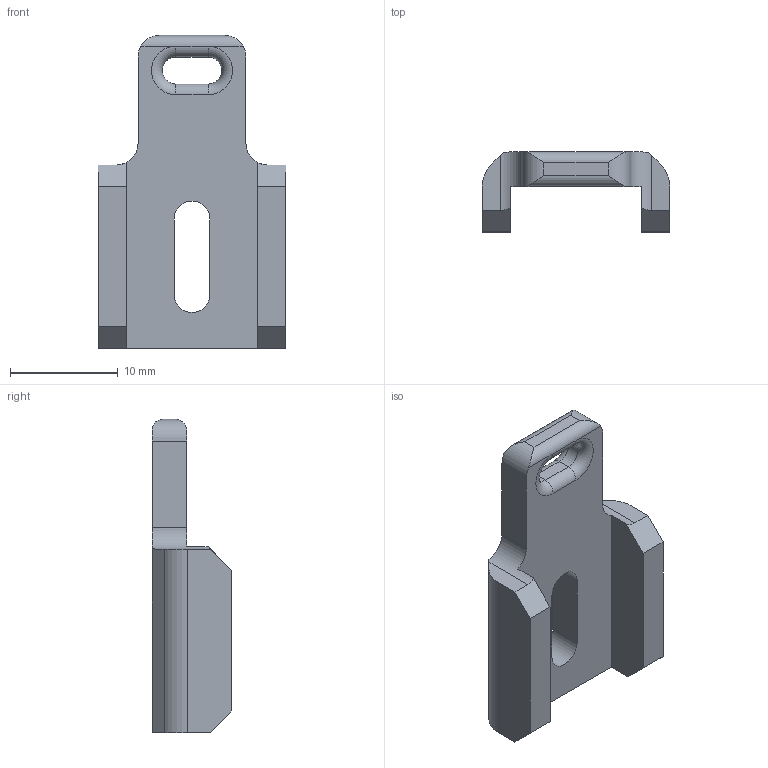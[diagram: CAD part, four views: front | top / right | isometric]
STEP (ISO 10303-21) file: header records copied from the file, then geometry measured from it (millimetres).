
FILE_DESCRIPTION(('CATIA V5 STEP Exchange'),'2;1');
FILE_NAME('E:\Dropbox\3D Printer Fan Duct Designs\1.) Artillery Sidewinder X1\3D Models\5015 Double Ducts\HEMERA MATRIX\Volcano ALL Step Files\Fixed Cable.stp','2022-01-08T18:21:25+00:00',('none'),('none'),'CATIA Version 5 Release 20 SP 1 (IN-10)','CATIA V5 STEP AP214','none');
FILE_SCHEMA(('AUTOMOTIVE_DESIGN { 1 0 10303 214 1 1 1 1 }'));
Length unit declared in the file: millimetre
Products named in the file (1): SUPPORTO_BLtouch_5015
Bounding box: 17.4 x 7.4 x 29 mm (x, y, z)
Volume: 1455.9 mm3; surface area: 1382.7 mm2
Topology: 1 solids, 1 shells, 44 faces, 120 edges, 76 vertices
Faces by surface type: plane 24, cylinder 16, torus 4
Entity records: 1392 total; most frequent: CARTESIAN_POINT 274, ORIENTED_EDGE 240, DIRECTION 198, EDGE_CURVE 120, VECTOR 80, LINE 80, AXIS2_PLACEMENT_3D 76, VERTEX_POINT 76
